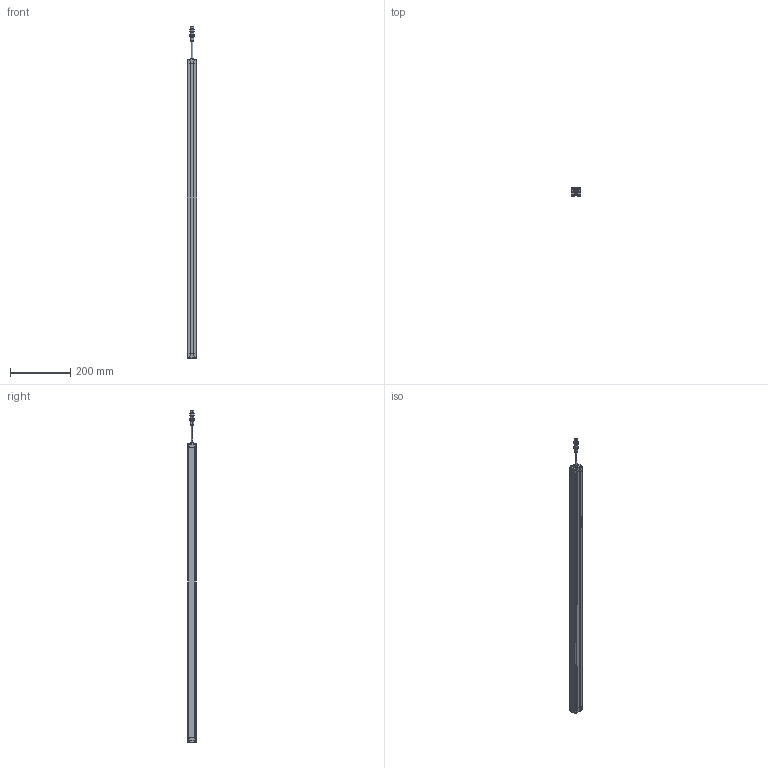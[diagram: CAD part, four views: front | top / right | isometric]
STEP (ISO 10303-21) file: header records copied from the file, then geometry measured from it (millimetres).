
FILE_DESCRIPTION((''),'2;1');
FILE_NAME('SMT1-CGQ_ASM','2025-08-08T08:35:48',('Administrator'),(''),'CREO PARAMETRIC BY PTC INC, 2016510','CREO PARAMETRIC BY PTC INC, 2016510','');
FILE_SCHEMA(('CONFIG_CONTROL_DESIGN'));
Length unit declared in the file: millimetre
Products named in the file (7): SMT1-XINGCAI-V1; SMT1-SDG-V1; SMT1-XDG-V1; M12-CHATOU; ST3X18; CT4-LVGUANGBAN; SMT1-CGQ_ASM
Assembly tree (13 placements, depth 2):
  SMT1-CGQ_ASM
    SMT1-XINGCAI-V1
    SMT1-SDG-V1
    SMT1-XDG-V1
    M12-CHATOU
    ST3X18  x8
    CT4-LVGUANGBAN
Bounding box: 33 x 28.02 x 1099.5 mm (x, y, z)
Volume: 767961.9 mm3; surface area: 248026.4 mm2
Topology: 13 solids, 13 shells, 712 faces, 1868 edges, 1200 vertices
Faces by surface type: plane 382, cylinder 184, extrusion 86, sphere 32, cone 20, bspline 8
Entity records: 18128 total; most frequent: CARTESIAN_POINT 4347, ORIENTED_EDGE 2916, DIRECTION 2580, EDGE_CURVE 1458, VECTOR 1036, VERTEX_POINT 955, LINE 950, AXIS2_PLACEMENT_3D 772
